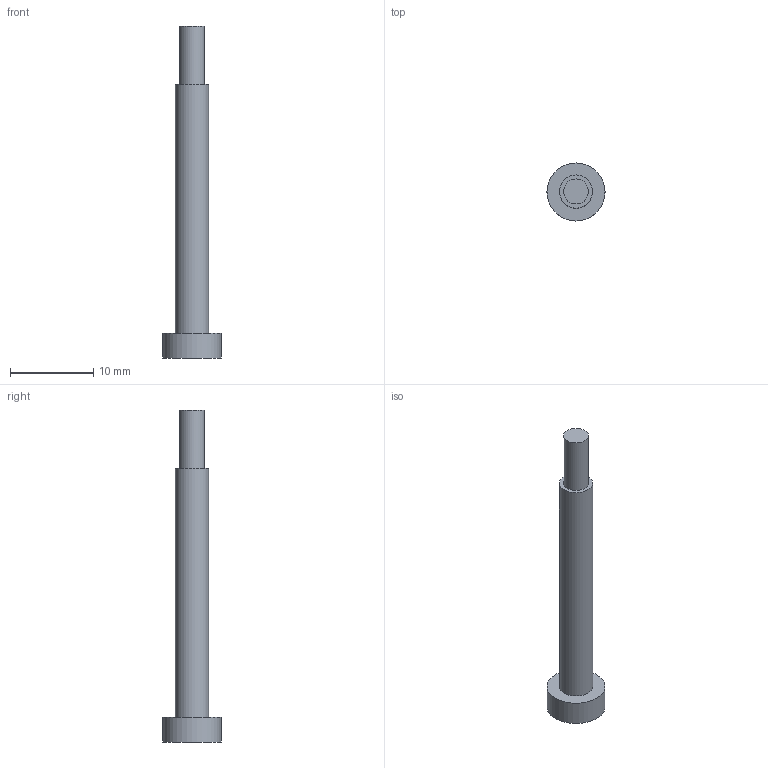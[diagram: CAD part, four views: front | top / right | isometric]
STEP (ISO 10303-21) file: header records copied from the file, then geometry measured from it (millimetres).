
FILE_DESCRIPTION(('Open CASCADE Model'),'2;1');
FILE_NAME('Open CASCADE Shape Model','2026-11-14T12:29:53',('Author'),( 'Open CASCADE'),'Open CASCADE STEP processor 8.0','Open CASCADE 8.0' ,'Unknown');
FILE_SCHEMA(('AUTOMOTIVE_DESIGN { 1 0 10303 214 1 1 1 1 }'));
Length unit declared in the file: millimetre
Products named in the file (1): Open CASCADE STEP translator 8.0 7
Bounding box: 7 x 7 x 40 mm (x, y, z)
Volume: 536.2 mm3; surface area: 597.3 mm2
Topology: 1 solids, 1 shells, 14 faces, 27 edges, 18 vertices
Faces by surface type: plane 11, cylinder 3
Full cylindrical faces by diameter (mm): 3 x1, 4 x1, 7 x1
Entity records: 706 total; most frequent: CARTESIAN_POINT 126, DIRECTION 105, LINE 57, VECTOR 57, ORIENTED_EDGE 54, PCURVE 54, DEFINITIONAL_REPRESENTATION 54, EDGE_CURVE 27
